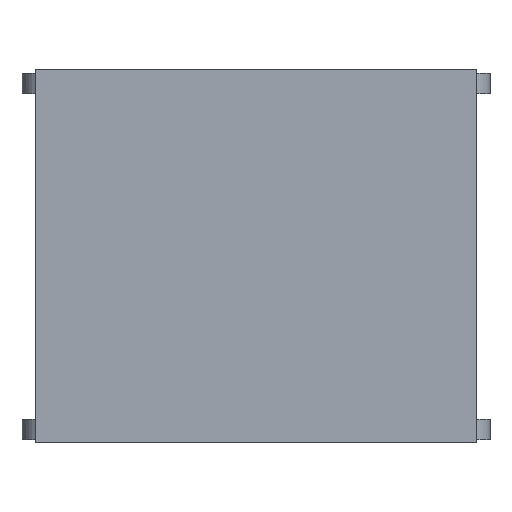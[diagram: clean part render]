
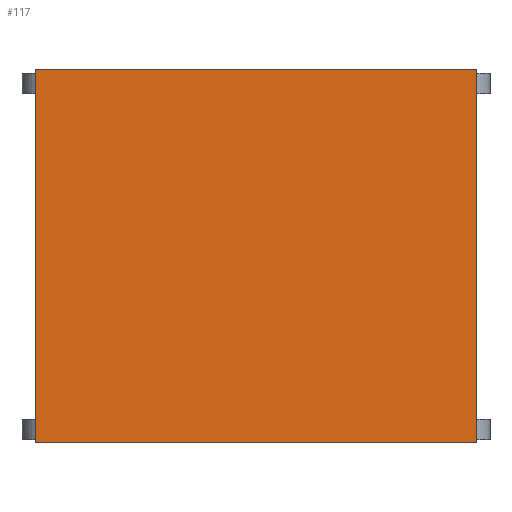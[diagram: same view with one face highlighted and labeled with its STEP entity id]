
A CAD part, top view. The second image highlights one B-rep face of the part: STEP entity #117.
In plain terms, the highlighted planar face has unit normal (0, 0, 1).
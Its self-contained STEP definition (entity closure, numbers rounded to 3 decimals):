
#117=ADVANCED_FACE('',(#225),#1563,.T.);
#225=FACE_OUTER_BOUND('',#333,.T.);
#333=EDGE_LOOP('',(#569,#570,#571,#572));
#569=ORIENTED_EDGE('',*,*,#965,.T.);
#570=ORIENTED_EDGE('',*,*,#966,.T.);
#571=ORIENTED_EDGE('',*,*,#967,.F.);
#572=ORIENTED_EDGE('',*,*,#968,.F.);
#965=EDGE_CURVE('',#1417,#1418,#1229,.T.);
#966=EDGE_CURVE('',#1418,#1419,#1230,.T.);
#967=EDGE_CURVE('',#1420,#1419,#1231,.T.);
#968=EDGE_CURVE('',#1417,#1420,#1232,.T.);
#1229=B_SPLINE_CURVE_WITH_KNOTS('',1,(#2176,#2177),.UNSPECIFIED.,.F.,.F.,
(2,2),(0.,650.),.UNSPECIFIED.);
#1230=B_SPLINE_CURVE_WITH_KNOTS('',1,(#2178,#2179),.UNSPECIFIED.,.F.,.F.,
(2,2),(0.,61.4),.UNSPECIFIED.);
#1231=B_SPLINE_CURVE_WITH_KNOTS('',1,(#2180,#2181),.UNSPECIFIED.,.F.,.F.,
(2,2),(0.,650.),.UNSPECIFIED.);
#1232=B_SPLINE_CURVE_WITH_KNOTS('',1,(#2182,#2183),.UNSPECIFIED.,.F.,.F.,
(2,2),(0.,61.4),.UNSPECIFIED.);
#1417=VERTEX_POINT('',#2168);
#1418=VERTEX_POINT('',#2169);
#1419=VERTEX_POINT('',#2170);
#1420=VERTEX_POINT('',#2171);
#1563=PLANE('',#1665);
#1665=AXIS2_PLACEMENT_3D('',#2162,#1750,$);
#1750=DIRECTION('',(0.,0.,1.));
#2162=CARTESIAN_POINT('',(167.,1100.,632.));
#2168=CARTESIAN_POINT('',(167.,1100.,632.));
#2169=CARTESIAN_POINT('',(-483.,1100.,632.));
#2170=CARTESIAN_POINT('',(-483.,550.,632.));
#2171=CARTESIAN_POINT('',(167.,550.,632.));
#2176=CARTESIAN_POINT('',(167.,1100.,632.));
#2177=CARTESIAN_POINT('',(-483.,1100.,632.));
#2178=CARTESIAN_POINT('',(-483.,1100.,632.));
#2179=CARTESIAN_POINT('',(-483.,550.,632.));
#2180=CARTESIAN_POINT('',(167.,550.,632.));
#2181=CARTESIAN_POINT('',(-483.,550.,632.));
#2182=CARTESIAN_POINT('',(167.,1100.,632.));
#2183=CARTESIAN_POINT('',(167.,550.,632.));
